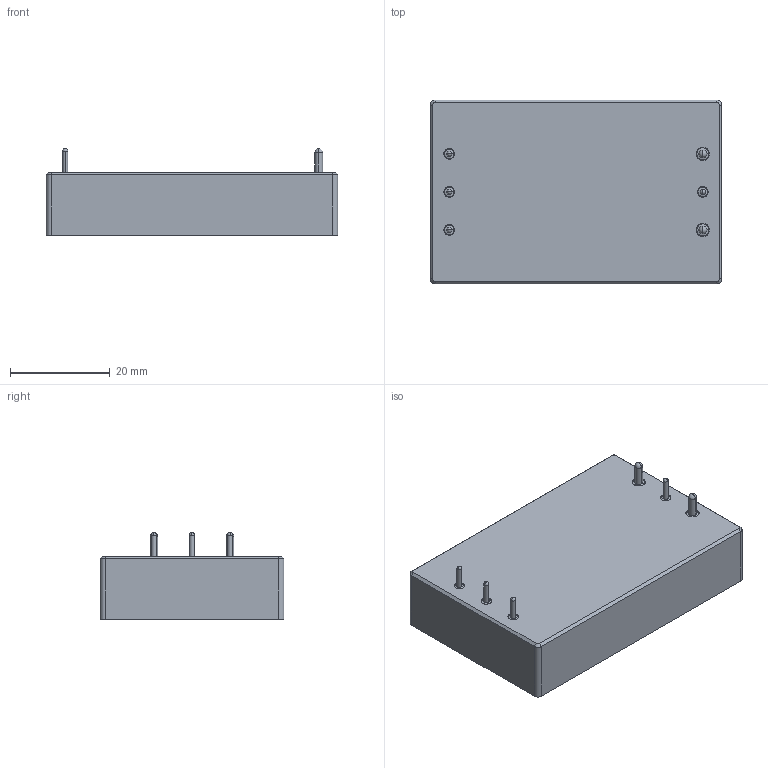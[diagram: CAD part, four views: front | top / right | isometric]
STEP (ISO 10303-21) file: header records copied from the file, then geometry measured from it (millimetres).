
FILE_DESCRIPTION (( 'STEP AP214' ), '1' );
FILE_NAME ('KRFL01.STEP', '2023-08-12T14:36:27', ( '' ), ( '' ), 'SwSTEP 2.0', 'SolidWorks 2021', '' );
FILE_SCHEMA (( 'AUTOMOTIVE_DESIGN' ));
Length unit declared in the file: millimetre
Products named in the file (1): KRFL01
Bounding box: 58.42 x 36.83 x 17.4 mm (x, y, z)
Volume: 8527.6 mm3; surface area: 16860.3 mm2
Topology: 1 solids, 1 shells, 577 faces, 1454 edges, 898 vertices
Faces by surface type: plane 269, cylinder 204, cone 78, torus 12, sphere 12, bspline 2
Entity records: 17644 total; most frequent: CARTESIAN_POINT 3854, DIRECTION 2932, ORIENTED_EDGE 2876, EDGE_CURVE 1438, AXIS2_PLACEMENT_3D 1130, VERTEX_POINT 894, VECTOR 672, LINE 672
